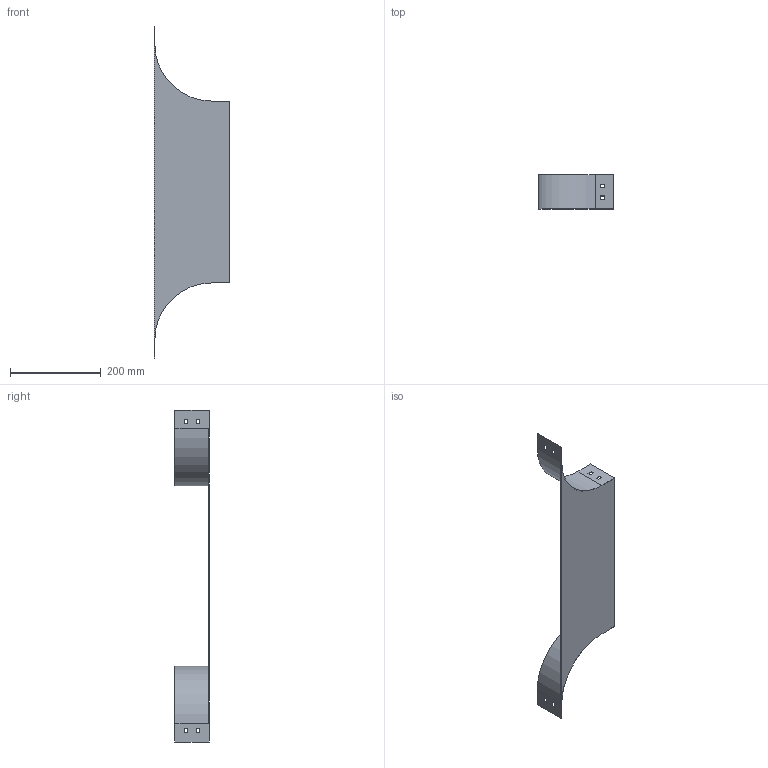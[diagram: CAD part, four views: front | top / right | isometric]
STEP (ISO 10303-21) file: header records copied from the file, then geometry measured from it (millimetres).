
FILE_DESCRIPTION (( 'STEP AP214' ), '1' );
FILE_NAME ('RL_407.step', '2025-07-16T09:25:34', ( '' ), ( '' ), 'SwSTEP 2.0', 'SolidWorks 2023', '' );
FILE_SCHEMA (( 'AUTOMOTIVE_DESIGN' ));
Length unit declared in the file: millimetre
Products named in the file (1): RL_407
Bounding box: 166.5 x 75 x 730 mm (x, y, z)
Volume: 171056.8 mm3; surface area: 231453.3 mm2
Topology: 1 solids, 1 shells, 50 faces, 144 edges, 96 vertices
Faces by surface type: plane 46, cylinder 4
Entity records: 1671 total; most frequent: CARTESIAN_POINT 291, ORIENTED_EDGE 288, DIRECTION 254, EDGE_CURVE 144, LINE 136, VECTOR 136, VERTEX_POINT 96, EDGE_LOOP 66
